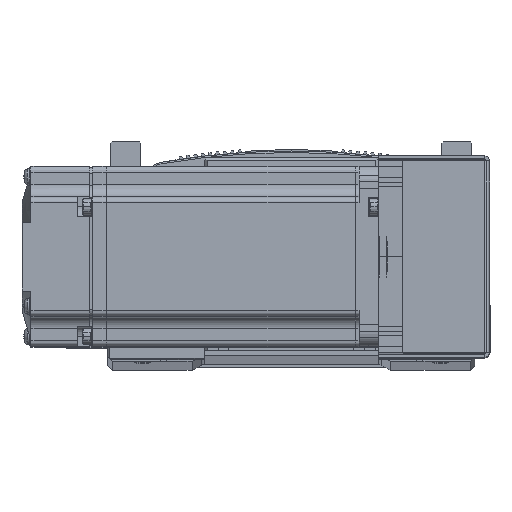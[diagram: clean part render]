
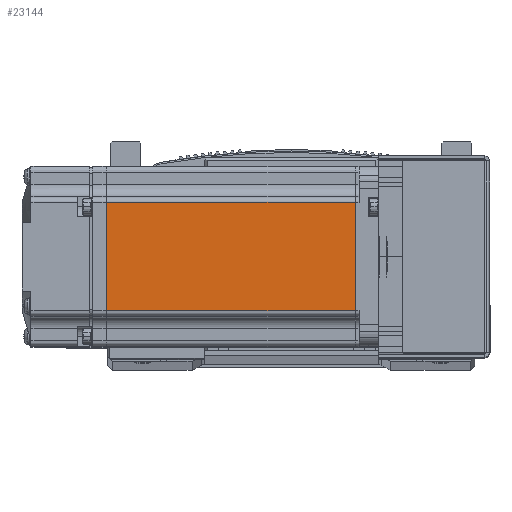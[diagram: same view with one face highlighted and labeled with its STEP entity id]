
A CAD part, top view. The second image highlights one B-rep face of the part: STEP entity #23144.
In plain terms, the highlighted planar face has unit normal (0, 0, 1) as drawn and (0, 1, 0) by its records, which use the part's own axes.
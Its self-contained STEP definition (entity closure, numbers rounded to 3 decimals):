
#8962 = CARTESIAN_POINT ( 'NONE',  ( -7.75, 30., -18. ) ) ;
#9033 = CARTESIAN_POINT ( 'NONE',  ( -90.45, 30., -18. ) ) ;
#9076 = CARTESIAN_POINT ( 'NONE',  ( -90.45, 30., 18. ) ) ;
#9083 = CARTESIAN_POINT ( 'NONE',  ( -7.75, 30., 18. ) ) ;
#10694 = EDGE_LOOP ( 'NONE', ( #73226, #73035, #73102, #73148 ) ) ;
#16490 = DIRECTION ( 'NONE',  ( 1., 0., 0. ) ) ;
#16507 = CARTESIAN_POINT ( 'NONE',  ( -6.5, 30., 18. ) ) ;
#16574 = DIRECTION ( 'NONE',  ( -1., 0., 0. ) ) ;
#16577 = DIRECTION ( 'NONE',  ( 0., 0., 1. ) ) ;
#16584 = CARTESIAN_POINT ( 'NONE',  ( -6.5, 30., -18. ) ) ;
#16585 = CARTESIAN_POINT ( 'NONE',  ( -7.75, 30., 0. ) ) ;
#16681 = CARTESIAN_POINT ( 'NONE',  ( -90.45, 30., 0. ) ) ;
#16702 = DIRECTION ( 'NONE',  ( 0., 0., 1. ) ) ;
#23144 = ADVANCED_FACE ( 'NONE', ( #44653 ), #83312, .T. ) ;
#29120 = LINE ( 'NONE', #16507, #29219 ) ;
#29219 = VECTOR ( 'NONE', #16490, 1000. ) ;
#29282 = LINE ( 'NONE', #16584, #29406 ) ;
#29285 = VECTOR ( 'NONE', #16577, 1000. ) ;
#29353 = LINE ( 'NONE', #16585, #29285 ) ;
#29406 = VECTOR ( 'NONE', #16574, 1000. ) ;
#29445 = VECTOR ( 'NONE', #16702, 1000. ) ;
#29510 = LINE ( 'NONE', #16681, #29445 ) ;
#44653 = FACE_OUTER_BOUND ( 'NONE', #10694, .T. ) ;
#63456 = AXIS2_PLACEMENT_3D ( 'NONE', #83314, #83380, #83317 ) ;
#73035 = ORIENTED_EDGE ( 'NONE', *, *, #75568, .T. ) ;
#73102 = ORIENTED_EDGE ( 'NONE', *, *, #75603, .T. ) ;
#73148 = ORIENTED_EDGE ( 'NONE', *, *, #75527, .T. ) ;
#73226 = ORIENTED_EDGE ( 'NONE', *, *, #75569, .F. ) ;
#75527 = EDGE_CURVE ( 'NONE', #82651, #82665, #29120, .T. ) ;
#75568 = EDGE_CURVE ( 'NONE', #82560, #82658, #29282, .T. ) ;
#75569 = EDGE_CURVE ( 'NONE', #82560, #82665, #29353, .T. ) ;
#75603 = EDGE_CURVE ( 'NONE', #82658, #82651, #29510, .T. ) ;
#82560 = VERTEX_POINT ( 'NONE', #8962 ) ;
#82651 = VERTEX_POINT ( 'NONE', #9076 ) ;
#82658 = VERTEX_POINT ( 'NONE', #9033 ) ;
#82665 = VERTEX_POINT ( 'NONE', #9083 ) ;
#83312 = PLANE ( 'NONE',  #63456 ) ;
#83314 = CARTESIAN_POINT ( 'NONE',  ( -6.5, 30., 25. ) ) ;
#83317 = DIRECTION ( 'NONE',  ( 0., 0., 1. ) ) ;
#83380 = DIRECTION ( 'NONE',  ( 0., 1., 0. ) ) ;
